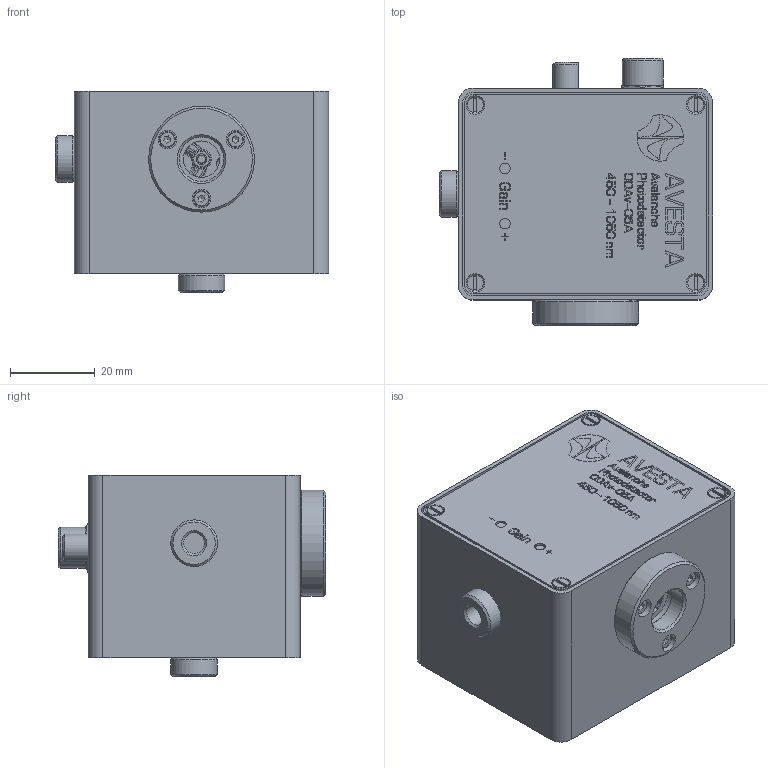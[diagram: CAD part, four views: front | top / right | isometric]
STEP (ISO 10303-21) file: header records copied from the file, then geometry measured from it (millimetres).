
FILE_DESCRIPTION(/* description */ (''),/* implementation_level */ '2;1');
FILE_NAME(/* name */ 'Y:\e.kushnir\- От Владлена -\ODAv-05a.stp',/* time_stamp */ '2021-04-08T18:23:26+03:00',/* author */ ('svlad'),/* organization */ (''),/* preprocessor_version */ 'ST-DEVELOPER v17',/* originating_system */ 'Autodesk Inventor 2019',/* authorisation */ '');
FILE_SCHEMA (('AUTOMOTIVE_DESIGN { 1 0 10303 214 3 1 1 }'));
Products named in the file (1): ЛФП1-18.000-01 СБ Лавинный 
фотоприемник ODAv-05a_Shri
nkwrap_1
Bounding box: 64.5 x 63 x 47.5 mm (x, y, z)
Volume: 130515.9 mm3; surface area: 20183.9 mm2
Topology: 2 solids, 2 shells, 1543 faces, 4196 edges, 2811 vertices
Faces by surface type: plane 901, bspline 429, cylinder 133, cone 49, torus 27, sphere 4
Full cylindrical faces by diameter (mm): 0.8 x4, 1.901 x1, 2.5 x3, 2.95 x1, 3 x1, 3.2 x8, 3.8 x3, 4 x2, 4.251 x1, 4.4 x3, 4.7 x1, 4.917 x2, 5 x2, 7 x3, 7.4 x1, 8.1 x2, 9.7 x1, 10.2 x1, 10.5 x1, 11 x4, 11.5 x2, 25 x1
Entity records: 57870 total; most frequent: CARTESIAN_POINT 20013, ORIENTED_EDGE 8374, DIRECTION 5887, EDGE_CURVE 4187, VERTEX_POINT 2809, LINE 2583, VECTOR 2583, EDGE_LOOP 1738
